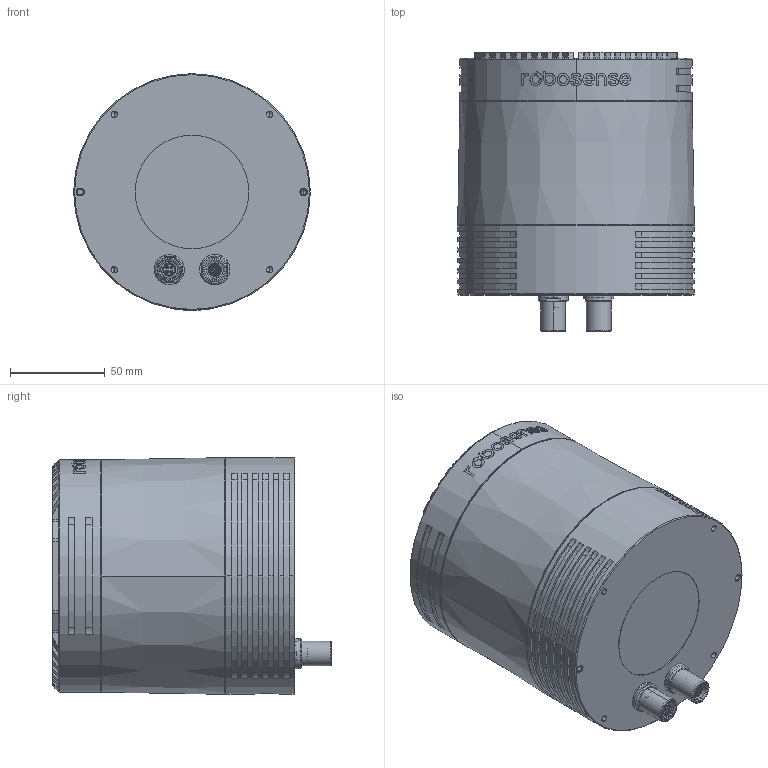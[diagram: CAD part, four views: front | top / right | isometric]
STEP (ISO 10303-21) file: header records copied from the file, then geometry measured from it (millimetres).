
FILE_DESCRIPTION (( 'STEP AP214' ), '1' );
FILE_NAME ('0303俋夤-陔階裔_20220221.STEP', '2022-02-21T03:01:37', ( '' ), ( '' ), 'SwSTEP 2.0', 'SolidWorks 2019', '' );
FILE_SCHEMA (( 'AUTOMOTIVE_DESIGN' ));
Length unit declared in the file: millimetre
Products named in the file (8): 20202-0579-01 階裔; 20208-0092-00 芵ァ概VV-P360-00-GN1; 0303俋夤-陔階裔_20220221; 20107-0106-01 4郋瑤脣釱_躺瑤脣; 菁釱郪璃; 20202-0360-02 菁釱; 20306-0013-01 滅誘欶_拸裔; 20107-0112-01 16郋瑤脣釱_躺瑤脣
Assembly tree (7 placements, depth 3):
  0303俋夤-陔階裔_20220221
    菁釱郪璃
      20202-0360-02 菁釱
      20208-0092-00 芵ァ概VV-P360-00-GN1
      20107-0106-01 4郋瑤脣釱_躺瑤脣
      20107-0112-01 16郋瑤脣釱_躺瑤脣
    20306-0013-01 滅誘欶_拸裔
    20202-0579-01 階裔
Bounding box: 125 x 147.2 x 125 mm (x, y, z)
Volume: 190802.2 mm3; surface area: 188539.6 mm2
Topology: 33 solids, 41 shells, 2919 faces, 7567 edges, 4829 vertices
Faces by surface type: plane 1162, cylinder 1095, cone 306, bspline 193, torus 163
Entity records: 139185 total; most frequent: CARTESIAN_POINT 53501, ORIENTED_EDGE 15042, DIRECTION 13777, EDGE_CURVE 7521, AXIS2_PLACEMENT_3D 5282, VERTEX_POINT 4829, VECTOR 3213, LINE 3213
